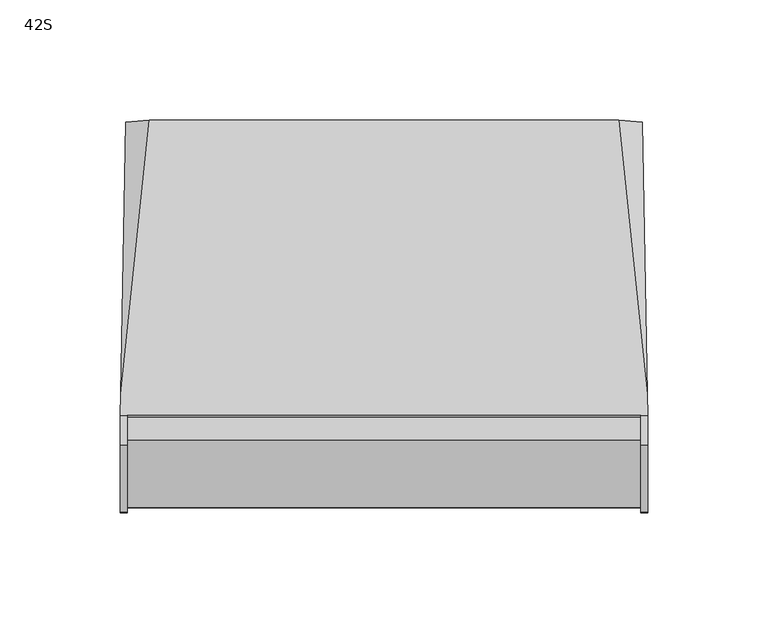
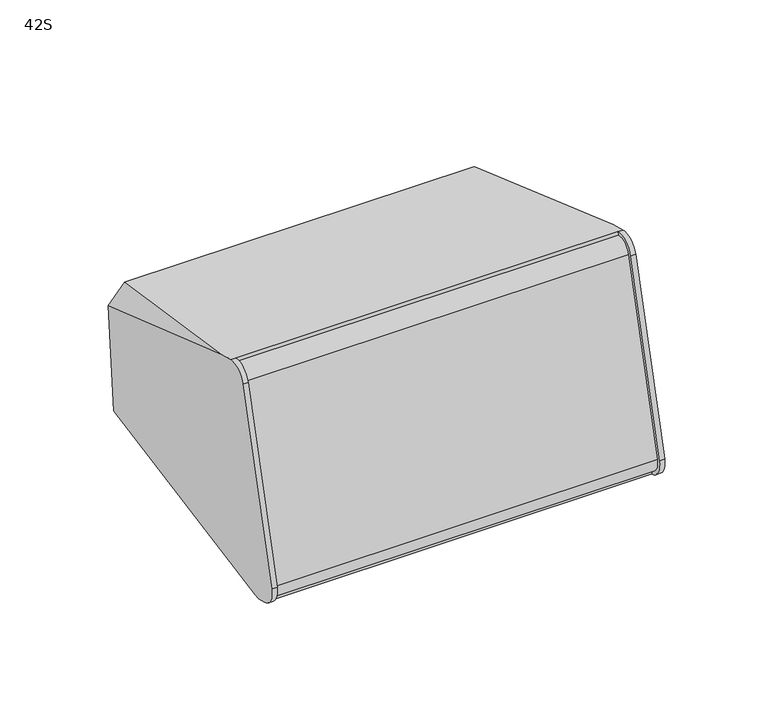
"""IFC4 building model written with IfcOpenShell, lengths in millimetres: proxy geometry, d&b xS-Series 42S Point Source : 42S."""

import ifcopenshell
import ifcopenshell.guid

model = None  # the IFC model being written
_history = None  # IfcOwnerHistory: only IFC2X3 demands one
_inside = {}  # id of a spatial element -> (the spatial element, [elements in it])
_under = {}  # id of a project, library or spatial element -> (it, [spatial elements below it])
_declared = {}  # id of a project -> (the project, [libraries it declares])
_typed = {}  # id of a type object -> (the type object, [elements of that type])
_made_of = {}  # id of a material, layer set ... -> (it, [elements and type objects made of it])


def new_model(schema):
    """Start an empty IFC model of exactly this schema.

    Asked for "IFC4X3", IfcOpenShell would pick the latest addendum, in which some entities
    have other attributes; the version numbers below select the first issue.
    IFC2X3 requires an IfcOwnerHistory on every rooted entity: one is made here for all.
    """
    global model, _history
    if schema == "IFC4X3":
        model = ifcopenshell.file(schema_version=(4, 3, 0, 0))
    else:
        model = ifcopenshell.file(schema=schema)
    _inside.clear()
    _under.clear()
    _declared.clear()
    _typed.clear()
    _made_of.clear()
    _history = None
    if model.schema == "IFC2X3":
        org = make("IfcOrganization", Name="unknown")
        user = make(
            "IfcPersonAndOrganization",
            ThePerson=make("IfcPerson", FamilyName="unknown"),
            TheOrganization=org,
        )
        app = make(
            "IfcApplication",
            ApplicationDeveloper=org,
            Version="unknown",
            ApplicationFullName="unknown",
            ApplicationIdentifier="unknown",
        )
        _history = make(
            "IfcOwnerHistory",
            OwningUser=user,
            OwningApplication=app,
            ChangeAction="ADDED",
            CreationDate=0,
        )
    return model


def make(cls, **values):
    """One entity of the class cls with the attributes given. An attribute that is None is left unset."""
    return model.create_entity(
        cls, **{name: value for name, value in values.items() if value is not None}
    )


def rooted(cls, **values):
    """An entity with a GlobalId (a new one), such as an element, a storey or a relation."""
    return make(cls, GlobalId=ifcopenshell.guid.new(), OwnerHistory=_history, **values)


def si_unit(unit_type, name, prefix=None):
    """IfcSIUnit, for example si_unit("LENGTHUNIT", "METRE", prefix="MILLI")."""
    return make("IfcSIUnit", UnitType=unit_type, Prefix=prefix, Name=name)


def assignment(units):
    """IfcUnitAssignment: the units of a project."""
    return None if units is None else make("IfcUnitAssignment", Units=units)


def point(xyz):
    """IfcCartesianPoint."""
    return None if xyz is None else make("IfcCartesianPoint", Coordinates=xyz)


def direction(xyz):
    """IfcDirection."""
    return None if xyz is None else make("IfcDirection", DirectionRatios=xyz)


def frame(location, z_axis=None, x_axis=None):
    """IfcAxis2Placement3D, a coordinate frame: its origin and axes. An axis left out is left unset."""
    return make(
        "IfcAxis2Placement3D",
        Location=point(location),
        Axis=direction(z_axis),
        RefDirection=direction(x_axis),
    )


def frame_2d(location, x_axis=None):
    """IfcAxis2Placement2D, a coordinate frame in the plane: its origin and x axis."""
    return make(
        "IfcAxis2Placement2D", Location=point(location), RefDirection=direction(x_axis)
    )


def origin():
    """The frame at (0, 0, 0) with its axes left unset."""
    return frame((0.0, 0.0, 0.0))


def place(relative_to, where):
    """IfcLocalPlacement: puts the frame where relative to a parent placement (None: the world)."""
    return make(
        "IfcLocalPlacement", PlacementRelTo=relative_to, RelativePlacement=where
    )


def context(
    kind, dimensions, precision=None, world=None, true_north=None, identifier=None
):
    """IfcGeometricRepresentationContext, for example the 3D "Model" context."""
    return make(
        "IfcGeometricRepresentationContext",
        ContextIdentifier=identifier,
        ContextType=kind,
        CoordinateSpaceDimension=dimensions,
        Precision=precision,
        WorldCoordinateSystem=world,
        TrueNorth=true_north,
    )


def project(units=None, contexts=None):
    """IfcProject with its units and contexts."""
    return rooted(
        "IfcProject",
        Name="project",
        RepresentationContexts=contexts,
        UnitsInContext=assignment(units),
    )


def spatial(cls, under=None, at=None, **own):
    """A site, building, storey or space (cls), placed at a placement, below another one or the project."""
    s = rooted(cls, ObjectPlacement=at, **own)
    if under is not None:
        _under.setdefault(under.id(), (under, []))[1].append(s)
    return s


def polyline(points):
    """IfcPolyline through the points."""
    return make("IfcPolyline", Points=[point(p) for p in points])


def circle_curve(where, radius):
    """IfcCircle in the frame where."""
    return make("IfcCircle", Position=where, Radius=radius)


def ellipse_curve(where, semi_axis1, semi_axis2):
    """IfcEllipse in the frame where."""
    return make(
        "IfcEllipse", Position=where, SemiAxis1=semi_axis1, SemiAxis2=semi_axis2
    )


def trimmed(basis, trim1, trim2, sense, master):
    """IfcTrimmedCurve: the piece of a basis curve between two trims."""
    return make(
        "IfcTrimmedCurve",
        BasisCurve=basis,
        Trim1=trim1,
        Trim2=trim2,
        SenseAgreement=sense,
        MasterRepresentation=master,
    )


def segment(curve, same_sense, transition):
    """IfcCompositeCurveSegment."""
    return make(
        "IfcCompositeCurveSegment",
        Transition=transition,
        SameSense=same_sense,
        ParentCurve=curve,
    )


def composite_curve(segments, self_intersect=None):
    """IfcCompositeCurve: segments joined end to end."""
    return make("IfcCompositeCurve", Segments=segments, SelfIntersect=self_intersect)


def outline(outer, holes=None, kind="AREA"):
    """IfcArbitraryClosedProfileDef: a profile drawn as a closed curve; with holes, ...WithVoids."""
    if holes is None:
        return make("IfcArbitraryClosedProfileDef", ProfileType=kind, OuterCurve=outer)
    return make(
        "IfcArbitraryProfileDefWithVoids",
        ProfileType=kind,
        OuterCurve=outer,
        InnerCurves=holes,
    )


def extrude(swept, where, along, depth):
    """IfcExtrudedAreaSolid: the profile swept, set in the frame where, extruded along a direction by depth."""
    return make(
        "IfcExtrudedAreaSolid",
        SweptArea=swept,
        Position=where,
        ExtrudedDirection=direction(along),
        Depth=depth,
    )


def shape(context_of_items, identifier, shape_type, items):
    """IfcShapeRepresentation: the items that make up one representation, for example the "Body"."""
    return make(
        "IfcShapeRepresentation",
        ContextOfItems=context_of_items,
        RepresentationIdentifier=identifier,
        RepresentationType=shape_type,
        Items=items,
    )


def source(mapping_origin, context_of_items, identifier, shape_type, items):
    """IfcRepresentationMap: a shape defined once, which mapped items show again and again."""
    return make(
        "IfcRepresentationMap",
        MappingOrigin=mapping_origin,
        MappedRepresentation=shape(context_of_items, identifier, shape_type, items),
    )


def transform(
    local_origin,
    x_axis=None,
    y_axis=None,
    z_axis=None,
    scale=None,
    scale2=None,
    scale3=None,
    uniform=True,
):
    """IfcCartesianTransformationOperator3D, or its non-uniform kind. x_axis, y_axis, z_axis: its Axis1, 2, 3."""
    if uniform:
        return make(
            "IfcCartesianTransformationOperator3D",
            Axis1=direction(x_axis),
            Axis2=direction(y_axis),
            LocalOrigin=point(local_origin),
            Scale=scale,
            Axis3=direction(z_axis),
        )
    return make(
        "IfcCartesianTransformationOperator3DnonUniform",
        Axis1=direction(x_axis),
        Axis2=direction(y_axis),
        LocalOrigin=point(local_origin),
        Scale=scale,
        Axis3=direction(z_axis),
        Scale2=scale2,
        Scale3=scale3,
    )


def mapped(mapping_source, mapping_target):
    """IfcMappedItem: shows the shape of a source again, moved by a transform."""
    return make(
        "IfcMappedItem", MappingSource=mapping_source, MappingTarget=mapping_target
    )


def made_of(thing, what):
    """Note that an element or type object is made of a material, layer set ...; save() writes the relation."""
    if what is not None:
        _made_of.setdefault(what.id(), (what, []))[1].append(thing)
    return thing


def element(
    cls,
    number,
    at=None,
    inside=None,
    cuts=None,
    type_object=None,
    material=None,
    context=None,
    identifier="Body",
    shape_type=None,
    held_by="IfcProductDefinitionShape",
    body=None,
    shapes=None,
    **own,
):
    """One element of the class cls, such as IfcWall. Its Tag is "e" and its number.

    at: its placement. inside: the storey or other place that contains it. cuts: it is an
    opening in that element (IfcRelVoidsElement). A single representation is given by context,
    identifier, shape_type and body (its items); several are given by shapes. held_by: the class
    of the entity that holds the representations. save() writes the other relations.
    """
    e = rooted(cls, Tag="e%d" % number, ObjectPlacement=at, **own)
    if body is not None:
        shapes = [shape(context, identifier, shape_type, body)]
    if shapes is not None:
        e.Representation = make(held_by, Representations=shapes)
    if inside is not None:
        _inside.setdefault(inside.id(), (inside, []))[1].append(e)
    if cuts is not None:
        rooted(
            "IfcRelVoidsElement", RelatingBuildingElement=cuts, RelatedOpeningElement=e
        )
    if type_object is not None:
        _typed.setdefault(type_object.id(), (type_object, []))[1].append(e)
    return made_of(e, material)


def aggregate(whole, parts):
    """IfcRelAggregates: a whole, such as a stair, and the parts it consists of."""
    return rooted("IfcRelAggregates", RelatingObject=whole, RelatedObjects=parts)


def save(model, path):
    """Write the relations noted so far, then the file.

    IfcRelAggregates (storeys below a building ...), IfcRelContainedInSpatialStructure (elements
    in a storey), IfcRelDefinesByType, IfcRelAssociatesMaterial and IfcRelDeclares: one each for
    every whole, place, type object, material and project.
    """
    for whole, parts in _under.values():
        aggregate(whole, parts)
    for where, things in _inside.values():
        rooted(
            "IfcRelContainedInSpatialStructure",
            RelatedElements=things,
            RelatingStructure=where,
        )
    for kind, things in _typed.values():
        rooted("IfcRelDefinesByType", RelatedObjects=things, RelatingType=kind)
    for what, things in _made_of.values():
        rooted("IfcRelAssociatesMaterial", RelatedObjects=things, RelatingMaterial=what)
    for by, libraries in _declared.values():
        rooted("IfcRelDeclares", RelatingContext=by, RelatedDefinitions=libraries)
    model.write(path)


def plane_surface(at):
    """IfcPlane: the flat surface through the origin of the frame at, square to its z axis."""
    return make("IfcPlane", Position=at)


def cylinder_surface(at, radius):
    """IfcCylindricalSurface: all points at the distance radius from the z axis of the frame at."""
    return make("IfcCylindricalSurface", Position=at, Radius=radius)


def revolved_surface(curve, axis_point, axis_direction):
    """IfcSurfaceOfRevolution: the curve turned about the line through axis_point along axis_direction."""
    return make(
        "IfcSurfaceOfRevolution",
        SweptCurve=make("IfcArbitraryOpenProfileDef", ProfileType="CURVE", Curve=curve),
        AxisPosition=make("IfcAxis1Placement", Location=point(axis_point), Axis=direction(axis_direction)),
    )


def advanced_brep(points, edges, surfaces, faces):
    """IfcAdvancedBrep: a solid bounded by faces that lie on surfaces and meet in shared edges.

    An edge is (start, end): straight between two places in points (the first is 0);
    or (start, end, curve); or (start, end, curve, False) where it runs against its curve.
    A face is (place in surfaces, loops), or (place, loops, False) where it looks against
    its surface's normal. A loop lists edges by number (the first is 1), with a minus sign
    where the edge is run from its end to its start. The first loop is the outer one.
    """
    corners = [point(p) for p in points]
    vertices = [make("IfcVertexPoint", VertexGeometry=c) for c in corners]
    made = []
    for start, end, *more in edges:
        made.append(
            make(
                "IfcEdgeCurve",
                EdgeStart=vertices[start],
                EdgeEnd=vertices[end],
                EdgeGeometry=more[0] if more else make("IfcPolyline", Points=[corners[start], corners[end]]),
                SameSense=more[1] if len(more) > 1 else True,
            )
        )
    hull = []
    for where, loops, *sense in faces:
        bounds = []
        for j, loop in enumerate(loops):
            ring = [make("IfcOrientedEdge", EdgeElement=made[abs(k) - 1], Orientation=k > 0) for k in loop]
            bounds.append(
                make(
                    "IfcFaceOuterBound" if j == 0 else "IfcFaceBound",
                    Bound=make("IfcEdgeLoop", EdgeList=ring),
                    Orientation=True,
                )
            )
        hull.append(make("IfcAdvancedFace", Bounds=bounds, FaceSurface=surfaces[where], SameSense=sense[0] if sense else True))
    return make("IfcAdvancedBrep", Outer=make("IfcClosedShell", CfsFaces=hull))


def proxy_42s_c8104672(model_context):
    return source(origin(), model_context, "Body", "SolidModel", [
        advanced_brep(
        [(107.0, -47.1866856, 78.9013099), (-107.0, -47.1866856, 78.9013099), (-107.0, -47.6930588, 77.0114994), (107.0, -47.6930588, 77.0114994), (-107.0, -57.4482683, 71.3793266), (107.0, -57.4482683, 71.3793266), (-107.0, -85.4210241, -33.0164193), (107.0, -85.4210241, -33.0164193), (-107.0, -79.7641699, -42.8143783), (107.0, -79.7641699, -42.8143783), (-107.0, -80.281808, -44.7462299), (107.0, -80.281808, -44.7462299), (-109.8273531, -80.281808, -44.7462299), (-109.7253263, -74.5536839, -46.2810761), (109.7253263, -74.5536839, -46.2810761), (109.8273531, -80.281808, -44.7462299), (109.8279536, -47.1866856, 78.9013099), (109.6679034, -38.2009341, 76.493585), (97.8946622, 76.0907905, 45.8692097), (-97.8946622, 76.0907905, 45.8692097), (-109.6679034, -38.2009341, 76.493585), (-109.8279536, -47.1866856, 78.9013099), (-96.5142171, 69.1274139, -33.7225486), (96.5142171, 69.1274139, -33.7225486), (109.6679034, -71.0154389, -45.9718138), (-109.6679034, -71.0154389, -45.9718138), (107.602215, 75.2163274, 35.8740511), (-107.602215, 75.2163274, 35.8740511), (-107.4240938, 70.0200105, -23.5201237), (107.4240938, 70.0200105, -23.5201237), (109.9986507, -59.3380788, 71.8856998), (109.9993995, -87.3528758, -32.4987812), (-109.9993995, -87.3528758, -32.4987812), (-109.9993995, -59.38012, 71.8969646), (107.0, -87.3528758, -32.4987812), (107.0, -59.38012, 71.8969646), (95.447753, 74.4246735, 26.8254051), (82.947753, 75.5141203, 39.2778389), (67.052247, 75.5141203, 39.2778389), (54.552247, 74.4246735, 26.8254051), (54.552247, 70.8002588, -14.6018448), (67.052247, 69.710812, -27.0542786), (82.947753, 69.710812, -27.0542786), (95.447753, 70.8002588, -14.6018448), (-52.1, 74.4246735, 26.8254051), (-64.6, 75.5141203, 39.2778389), (-82.4, 75.5141203, 39.2778389), (-94.9, 74.4246735, 26.8254051), (-94.9, 70.8002588, -14.6018448), (-82.4, 69.710812, -27.0542786), (-64.6, 69.710812, -27.0542786), (-52.1, 70.8002588, -14.6018448), (95.447753, 69.4437, 27.2611838), (95.447753, 65.8192853, -14.1660661), (82.947753, 64.7298385, -26.6184999), (67.052247, 64.7298385, -26.6184999), (54.552247, 65.8192853, -14.1660661), (54.552247, 69.4437, 27.2611838), (67.052247, 70.5331468, 39.7136176), (82.947753, 70.5331468, 39.7136176), (-52.1, 69.4437, 27.2611838), (-52.1, 65.8192853, -14.1660661), (-64.6, 64.7298385, -26.6184999), (-82.4, 64.7298385, -26.6184999), (-94.9, 65.8192853, -14.1660661), (-94.9, 69.4437, 27.2611838), (-82.4, 70.5331468, 39.7136176), (-64.6, 70.5331468, 39.7136176), (-107.0, -59.3380788, 71.8856998), (-107.0, -87.3528758, -32.4987812)],
        [
            (0, 1),
            (1, 2),
            (2, 3),
            (3, 0),
            (2, 4, circle_curve(frame((-107.0, -49.7545772, 69.3178082), z_axis=(1.0, 0.0, 0.0), x_axis=(0.0, 0.25881904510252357, 0.9659258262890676)), 7.9650952)),
            (4, 5),
            (5, 3, circle_curve(frame((107.0, -49.7545772, 69.3178082), z_axis=(-1.0, 0.0, 0.0), x_axis=(0.0, 0.25881904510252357, 0.9659258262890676)), 7.9650952)),
            (4, 6),
            (6, 7),
            (7, 5),
            (6, 8, circle_curve(frame((-107.0, -77.6936175, -35.0869717), z_axis=(1.0, 0.0, 0.0), x_axis=(0.0, 0.25881904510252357, 0.9659258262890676)), 8.0)),
            (8, 9),
            (9, 7, circle_curve(frame((107.0, -77.6936175, -35.0869717), z_axis=(-1.0, 0.0, 0.0), x_axis=(0.0, 0.25881904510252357, 0.9659258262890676)), 8.0)),
            (8, 10),
            (10, 11),
            (11, 9),
            (10, 12),
            (12, 13),
            (13, 14),
            (14, 15),
            (15, 11),
            (0, 16),
            (16, 17),
            (17, 18),
            (18, 19),
            (19, 20),
            (20, 21),
            (21, 1),
            (22, 23),
            (23, 24),
            (24, 14),
            (13, 25),
            (25, 22),
            (26, 18),
            (17, 26),
            (19, 27),
            (27, 20),
            (28, 22),
            (25, 28),
            (23, 29),
            (29, 24),
            (29, 26),
            (16, 30, ellipse_curve(frame((109.8279536, -49.7545772, 69.3178082), z_axis=(0.9998520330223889, 0.016615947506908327, -0.0044522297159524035), x_axis=(0.017202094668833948, -0.9657829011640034, 0.2587807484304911)), 9.9230392, 9.921571)),
            (30, 31),
            (31, 15, ellipse_curve(frame((109.8273531, -77.6936175, -35.0869717), z_axis=(0.9998520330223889, 0.016615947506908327, -0.0044522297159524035), x_axis=(0.017202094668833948, -0.9657829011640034, 0.2587807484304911)), 10.0014799, 10.0)),
            (12, 32, ellipse_curve(frame((-109.8273531, -77.6936175, -35.0869717), z_axis=(-0.9998520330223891, 0.016615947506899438, -0.004452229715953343), x_axis=(0.017202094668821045, 0.965782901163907, -0.2587807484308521)), 10.0014799, 10.0)),
            (32, 33),
            (33, 21, ellipse_curve(frame((-109.8279536, -49.7545772, 69.3178082), z_axis=(-0.9998520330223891, 0.016615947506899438, -0.004452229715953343), x_axis=(0.017202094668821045, 0.965782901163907, -0.2587807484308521)), 9.9230392, 9.921571)),
            (27, 28),
            (11, 34, circle_curve(frame((107.0, -77.6936175, -35.0869717), z_axis=(-1.0, 0.0, 0.0), x_axis=(0.0, 0.25881904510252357, 0.9659258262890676)), 10.0)),
            (34, 35),
            (35, 0, circle_curve(frame((107.0, -49.7545772, 69.3178082), z_axis=(-1.0, 0.0, 0.0), x_axis=(0.0, 0.25881904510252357, 0.9659258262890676)), 9.921571)),
            (35, 30),
            (34, 31),
            (36, 37, circle_curve(frame((82.947753, 74.4246735, 26.8254051), z_axis=(0.0, -0.9961946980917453, 0.0871557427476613), x_axis=(0.0, -0.0871557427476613, -0.9961946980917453)), 12.5)),
            (37, 38),
            (38, 39, circle_curve(frame((67.052247, 74.4246735, 26.8254051), z_axis=(0.0, -0.9961946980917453, 0.0871557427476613), x_axis=(0.0, -0.0871557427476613, -0.9961946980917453)), 12.5)),
            (39, 40),
            (40, 41, circle_curve(frame((67.052247, 70.8002588, -14.6018448), z_axis=(0.0, -0.9961946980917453, 0.0871557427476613), x_axis=(0.0, -0.0871557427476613, -0.9961946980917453)), 12.5)),
            (41, 42),
            (42, 43, circle_curve(frame((82.947753, 70.8002588, -14.6018448), z_axis=(0.0, -0.9961946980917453, 0.0871557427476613), x_axis=(0.0, -0.0871557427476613, -0.9961946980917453)), 12.5)),
            (43, 36),
            (44, 45, circle_curve(frame((-64.6, 74.4246735, 26.8254051), z_axis=(0.0, -0.9961946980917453, 0.0871557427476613), x_axis=(0.0, -0.0871557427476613, -0.9961946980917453)), 12.5)),
            (45, 46),
            (46, 47, circle_curve(frame((-82.4, 74.4246735, 26.8254051), z_axis=(0.0, -0.9961946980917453, 0.0871557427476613), x_axis=(0.0, -0.0871557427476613, -0.9961946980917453)), 12.5)),
            (47, 48),
            (48, 49, circle_curve(frame((-82.4, 70.8002588, -14.6018448), z_axis=(0.0, -0.9961946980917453, 0.0871557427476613), x_axis=(0.0, -0.0871557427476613, -0.9961946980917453)), 12.5)),
            (49, 50),
            (50, 51, circle_curve(frame((-64.6, 70.8002588, -14.6018448), z_axis=(0.0, -0.9961946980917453, 0.0871557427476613), x_axis=(0.0, -0.0871557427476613, -0.9961946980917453)), 12.5)),
            (51, 44),
            (52, 53),
            (53, 54, circle_curve(frame((82.947753, 65.8192853, -14.1660661), z_axis=(0.0, 0.9961946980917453, -0.0871557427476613), x_axis=(0.0, -0.0871557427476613, -0.9961946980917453)), 12.5)),
            (54, 55),
            (55, 56, circle_curve(frame((67.052247, 65.8192853, -14.1660661), z_axis=(0.0, 0.9961946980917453, -0.0871557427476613), x_axis=(0.0, -0.0871557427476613, -0.9961946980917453)), 12.5)),
            (56, 57),
            (57, 58, circle_curve(frame((67.052247, 69.4437, 27.2611838), z_axis=(0.0, 0.9961946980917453, -0.0871557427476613), x_axis=(0.0, -0.0871557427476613, -0.9961946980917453)), 12.5)),
            (58, 59),
            (59, 52, circle_curve(frame((82.947753, 69.4437, 27.2611838), z_axis=(0.0, 0.9961946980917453, -0.0871557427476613), x_axis=(0.0, -0.0871557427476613, -0.9961946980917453)), 12.5)),
            (60, 61),
            (61, 62, circle_curve(frame((-64.6, 65.8192853, -14.1660661), z_axis=(0.0, 0.9961946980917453, -0.0871557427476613), x_axis=(0.0, -0.0871557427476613, -0.9961946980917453)), 12.5)),
            (62, 63),
            (63, 64, circle_curve(frame((-82.4, 65.8192853, -14.1660661), z_axis=(0.0, 0.9961946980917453, -0.0871557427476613), x_axis=(0.0, -0.0871557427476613, -0.9961946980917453)), 12.5)),
            (64, 65),
            (65, 66, circle_curve(frame((-82.4, 69.4437, 27.2611838), z_axis=(0.0, 0.9961946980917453, -0.0871557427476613), x_axis=(0.0, -0.0871557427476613, -0.9961946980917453)), 12.5)),
            (66, 67),
            (67, 60, circle_curve(frame((-64.6, 69.4437, 27.2611838), z_axis=(0.0, 0.9961946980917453, -0.0871557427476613), x_axis=(0.0, -0.0871557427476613, -0.9961946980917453)), 12.5)),
            (1, 68, circle_curve(frame((-107.0, -49.7545772, 69.3178082), z_axis=(1.0, 0.0, 0.0), x_axis=(0.0, 0.25881904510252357, 0.9659258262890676)), 9.921571)),
            (68, 69),
            (69, 10, circle_curve(frame((-107.0, -77.6936175, -35.0869717), z_axis=(1.0, 0.0, 0.0), x_axis=(0.0, 0.25881904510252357, 0.9659258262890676)), 10.0)),
            (33, 68),
            (32, 69),
            (59, 37),
            (36, 52),
            (58, 38),
            (57, 39),
            (56, 40),
            (55, 41),
            (54, 42),
            (53, 43),
            (67, 45),
            (44, 60),
            (66, 46),
            (65, 47),
            (64, 48),
            (63, 49),
            (62, 50),
            (61, 51),
        ],
        [
            plane_surface(frame((107.0, -47.1866856, 78.9013099), z_axis=(0.0, -0.9659258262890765, 0.25881904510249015), x_axis=(-1.0, 0.0, 0.0))),
            cylinder_surface(frame((-107.0, -49.7545772, 69.3178082), z_axis=(1.0000000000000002, 0.0, 0.0), x_axis=(0.0, 0.25881904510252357, 0.9659258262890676)), 7.9650952),
            plane_surface(frame((107.0, -57.4482683, 71.3793266), z_axis=(0.0, -0.9659258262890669, 0.2588190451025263), x_axis=(-1.0, 0.0, 0.0))),
            cylinder_surface(frame((-107.0, -77.6936175, -35.0869717), z_axis=(1.0000000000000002, 0.0, 0.0), x_axis=(0.0, 0.25881904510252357, 0.9659258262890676)), 8.0),
            plane_surface(frame((107.0, -79.7641699, -42.8143783), z_axis=(0.0, -0.965925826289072, 0.2588190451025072), x_axis=(-1.0, 0.0, 0.0))),
            plane_surface(frame((107.0, -80.281808, -44.7462299), z_axis=(0.0, -0.25881904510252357, -0.9659258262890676), x_axis=(-1.0, 0.0, 0.0))),
            plane_surface(frame((107.0, -41.4248462, 77.3574296), z_axis=(0.0, 0.25881904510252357, 0.9659258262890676), x_axis=(-1.0, 0.0, 0.0))),
            plane_surface(frame((0.0, 69.6574742, -33.6762184), z_axis=(0.0, 0.08707358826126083, -0.9962018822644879), x_axis=(1.0, 0.0, 0.0))),
            plane_surface(frame((103.232233, 88.2231547, 35.6118446), z_axis=(0.705363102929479, 0.25035388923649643, 0.66316349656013), x_axis=(-0.7071067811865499, 0.18301270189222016, 0.6830127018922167))),
            plane_surface(frame((-103.232233, 88.2231547, 35.6118446), z_axis=(-0.7053631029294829, 0.2503538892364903, 0.6631634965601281), x_axis=(-0.7071067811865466, -0.18301270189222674, -0.6830127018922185))),
            plane_surface(frame((-103.232233, 71.4091012, -27.1390575), z_axis=(-0.6719558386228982, 0.12684446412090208, -0.7296477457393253), x_axis=(0.7071067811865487, -0.18301270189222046, -0.6830127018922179))),
            plane_surface(frame((103.232233, 71.4091012, -27.1390575), z_axis=(0.671955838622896, 0.1268444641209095, -0.7296477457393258), x_axis=(0.7071067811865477, 0.1830127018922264, 0.6830127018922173))),
            plane_surface(frame((110.3665166, -119.8697317, -71.4086202), z_axis=(0.9998520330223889, 0.016615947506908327, -0.0044522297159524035), x_axis=(0.0, 0.25881904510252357, 0.9659258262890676))),
            plane_surface(frame((-107.2474477, 55.2451907, -118.3305223), z_axis=(-0.9998520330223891, 0.016615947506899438, -0.004452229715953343), x_axis=(0.0, 0.25881904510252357, 0.9659258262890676))),
            plane_surface(frame((107.0, -47.1866856, 78.9013099), z_axis=(-1.0000000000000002, 0.0, 0.0), x_axis=(0.0, 0.9659258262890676, -0.25881904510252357))),
            cylinder_surface(frame((107.0, -49.7545772, 69.3178082), z_axis=(1.0000000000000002, 0.0, 0.0), x_axis=(0.0, 0.25881904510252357, 0.9659258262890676)), 9.921571),
            plane_surface(frame((112.6426388, -59.38012, 71.8969646), z_axis=(0.0, -0.9659258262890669, 0.2588190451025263), x_axis=(-1.0, 0.0, 0.0))),
            cylinder_surface(frame((107.0, -77.6936175, -35.0869717), z_axis=(1.0000000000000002, 0.0, 0.0), x_axis=(0.0, 0.25881904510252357, 0.9659258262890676)), 10.0),
            plane_surface(frame((250.0, 77.6181758, 63.3273037), z_axis=(0.0, 0.9961946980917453, -0.08715574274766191), x_axis=(-1.0, 0.0, 0.0))),
            plane_surface(frame((82.947753, 68.3542532, 14.8087501), z_axis=(0.0, 0.9961946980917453, -0.0871557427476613), x_axis=(1.0, 0.0, 0.0))),
            plane_surface(frame((-107.0, -47.1866856, 78.9013099), z_axis=(1.0000000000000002, 0.0, 0.0), x_axis=(0.0, -0.9659258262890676, 0.25881904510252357))),
            cylinder_surface(frame((-113.0, -49.7545772, 69.3178082), z_axis=(1.0000000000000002, 0.0, 0.0), x_axis=(0.0, 0.25881904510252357, 0.9659258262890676)), 9.921571),
            plane_surface(frame((-107.0, -59.38012, 71.8969646), z_axis=(0.0, -0.9659258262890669, 0.2588190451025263), x_axis=(-1.0, 0.0, 0.0))),
            cylinder_surface(frame((-113.0, -77.6936175, -35.0869717), z_axis=(1.0000000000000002, 0.0, 0.0), x_axis=(0.0, 0.25881904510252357, 0.9659258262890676)), 10.0),
            revolved_surface(polyline([(82.947753, 68.35425321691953, 14.808750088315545), (82.947753, 73.33522672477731, 14.372971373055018)]), (82.947753, 74.4246735, 26.8254051), (0.0, -0.9961946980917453, 0.0871557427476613)),
            plane_surface(frame((82.947753, 70.5331468, 39.7136176), z_axis=(0.0, -0.08715574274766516, -0.996194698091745), x_axis=(0.0, 0.996194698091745, -0.08715574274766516))),
            revolved_surface(polyline([(67.052247, 68.35425321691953, 14.808750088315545), (67.052247, 73.33522672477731, 14.372971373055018)]), (67.052247, 74.4246735, 26.8254051), (0.0, -0.9961946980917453, 0.0871557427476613)),
            plane_surface(frame((54.552247, 69.4437, 27.2611838), z_axis=(1.0000000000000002, 0.0, 0.0), x_axis=(0.0, 0.996194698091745, -0.08715574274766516))),
            revolved_surface(polyline([(67.052247, 64.72983850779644, -26.618499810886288), (67.052247, 69.71081201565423, -27.054278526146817)]), (67.052247, 70.8002588, -14.6018448), (0.0, -0.9961946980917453, 0.0871557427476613)),
            plane_surface(frame((67.052247, 64.7298385, -26.6184999), z_axis=(0.0, 0.08715574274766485, 0.9961946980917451), x_axis=(0.0, 0.9961946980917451, -0.08715574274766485))),
            revolved_surface(polyline([(82.947753, 64.72983850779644, -26.618499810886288), (82.947753, 69.71081201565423, -27.054278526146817)]), (82.947753, 70.8002588, -14.6018448), (0.0, -0.9961946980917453, 0.0871557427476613)),
            plane_surface(frame((95.447753, 65.8192853, -14.1660661), z_axis=(-1.0000000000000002, 0.0, 0.0), x_axis=(0.0, 0.996194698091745, -0.08715574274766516))),
            revolved_surface(polyline([(-64.6, 68.35425321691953, 14.808750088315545), (-64.6, 73.33522672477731, 14.372971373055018)]), (-64.6, 74.4246735, 26.8254051), (0.0, -0.9961946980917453, 0.0871557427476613)),
            plane_surface(frame((-64.6, 70.5331468, 39.7136176), z_axis=(0.0, -0.08715574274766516, -0.996194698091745), x_axis=(0.0, 0.996194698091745, -0.08715574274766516))),
            revolved_surface(polyline([(-82.4, 68.35425321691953, 14.808750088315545), (-82.4, 73.33522672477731, 14.372971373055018)]), (-82.4, 74.4246735, 26.8254051), (0.0, -0.9961946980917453, 0.0871557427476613)),
            plane_surface(frame((-94.9, 69.4437, 27.2611838), z_axis=(1.0000000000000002, 0.0, 0.0), x_axis=(0.0, 0.996194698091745, -0.08715574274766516))),
            revolved_surface(polyline([(-82.4, 64.72983850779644, -26.618499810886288), (-82.4, 69.71081201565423, -27.054278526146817)]), (-82.4, 70.8002588, -14.6018448), (0.0, -0.9961946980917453, 0.0871557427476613)),
            plane_surface(frame((-82.4, 64.7298385, -26.6184999), z_axis=(0.0, 0.08715574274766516, 0.996194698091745), x_axis=(0.0, 0.996194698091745, -0.08715574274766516))),
            revolved_surface(polyline([(-64.6, 64.72983850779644, -26.618499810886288), (-64.6, 69.71081201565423, -27.054278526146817)]), (-64.6, 70.8002588, -14.6018448), (0.0, -0.9961946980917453, 0.0871557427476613)),
            plane_surface(frame((-52.1, 65.8192853, -14.1660661), z_axis=(-1.0000000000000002, 0.0, 0.0), x_axis=(0.0, 0.996194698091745, -0.08715574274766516))),
        ],
        [
            (0, [[1, 2, 3, 4]]),
            (1, [[-3, 5, 6, 7]]),
            (2, [[-6, 8, 9, 10]]),
            (3, [[-9, 11, 12, 13]]),
            (4, [[-12, 14, 15, 16]]),
            (5, [[-15, 17, 18, 19, 20, 21]]),
            (6, [[-1, 22, 23, 24, 25, 26, 27, 28]]),
            (7, [[29, 30, 31, -19, 32, 33]]),
            (8, [[34, -24, 35]]),
            (9, [[-26, 36, 37]]),
            (10, [[38, -33, 39]]),
            (11, [[-30, 40, 41]]),
            (12, [[-20, -31, -41, 42, -35, -23, 43, 44, 45]]),
            (13, [[-18, 46, 47, 48, -27, -37, 49, -39, -32]]),
            (14, [[50, 51, 52, -4, -7, -10, -13, -16]]),
            (15, [[-52, 53, -43, -22]]),
            (16, [[-51, 54, -44, -53]]),
            (17, [[-50, -21, -45, -54]]),
            (18, [[-25, -34, -42, -40, -29, -38, -49, -36], [55, 56, 57, 58, 59, 60, 61, 62], [63, 64, 65, 66, 67, 68, 69, 70]]),
            (19, [[71, 72, 73, 74, 75, 76, 77, 78]]),
            (19, [[79, 80, 81, 82, 83, 84, 85, 86]]),
            (20, [[87, 88, 89, -14, -11, -8, -5, -2]]),
            (21, [[-87, -28, -48, 90]]),
            (22, [[-88, -90, -47, 91]]),
            (23, [[-89, -91, -46, -17]]),
            (24, [[-78, 92, -55, 93]]),
            (25, [[-77, 94, -56, -92]]),
            (26, [[-76, 95, -57, -94]]),
            (27, [[-75, 96, -58, -95]]),
            (28, [[-74, 97, -59, -96]]),
            (29, [[-73, 98, -60, -97]]),
            (30, [[-72, 99, -61, -98]]),
            (31, [[-71, -93, -62, -99]]),
            (32, [[-86, 100, -63, 101]]),
            (33, [[-85, 102, -64, -100]]),
            (34, [[-84, 103, -65, -102]]),
            (35, [[-83, 104, -66, -103]]),
            (36, [[-82, 105, -67, -104]]),
            (37, [[-81, 106, -68, -105]]),
            (38, [[-80, 107, -69, -106]]),
            (39, [[-79, -101, -70, -107]]),
        ],
    ),
        extrude(outline(composite_curve([segment(trimmed(circle_curve(frame_2d((0.0, -12.0)), 12.0), [point((0.0, -23.9999999))], [point((0.0, 0.0))], False, "CARTESIAN"), True, "CONTINUOUS"), segment(trimmed(circle_curve(frame_2d((0.0, -12.0)), 12.0), [point((0.0, 0.0))], [point((0.0, -23.9999999))], False, "CARTESIAN"), True, "CONTINUOUS")], self_intersect=False)), frame((-74.8471384, 74.9620975, 32.9681897), z_axis=(0.0, -0.9961946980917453, 0.08715574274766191), x_axis=(1.0, 0.0, 0.0)), (0.0, 0.0, 1.0), 5.0),
        extrude(outline(composite_curve([segment(trimmed(circle_curve(frame_2d((0.0, -42.0)), 12.0), [point((0.0, -54.0))], [point((0.0, -30.0))], False, "CARTESIAN"), True, "CONTINUOUS"), segment(trimmed(circle_curve(frame_2d((0.0, -42.0)), 12.0), [point((0.0, -30.0))], [point((0.0, -54.0))], False, "CARTESIAN"), True, "CONTINUOUS")], self_intersect=False)), frame((-74.8471384, 74.9620975, 32.9681897), z_axis=(0.0, -0.9961946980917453, 0.08715574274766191), x_axis=(1.0, 0.0, 0.0)), (0.0, 0.0, 1.0), 5.0),
    ])


if __name__ == "__main__":
    model = new_model("IFC4")
    model_context = context("Model", 3, world=origin())
    ifc_project = project(units=[si_unit("LENGTHUNIT", "METRE", prefix="MILLI")], contexts=[model_context])
    site = spatial("IfcSite", under=ifc_project)
    building = spatial("IfcBuilding", under=site)
    placement = place(None, origin())
    proxy_42s_shape = proxy_42s_c8104672(model_context)
    element("IfcBuildingElementProxy", 1, Name="d&b xS-Series 42S Point Source : 42S", ObjectType="d&b xS-Series 42S Point Source : 42S", at=placement, inside=building, context=model_context, shape_type="MappedRepresentation", body=[
        mapped(proxy_42s_shape, transform((0.0, 0.0, 0.0), x_axis=(1.0, 0.0, 0.0), y_axis=(0.0, 1.0, 0.0), z_axis=(0.0, 0.0, 1.0))),
    ])
    save(model, "model.ifc")
